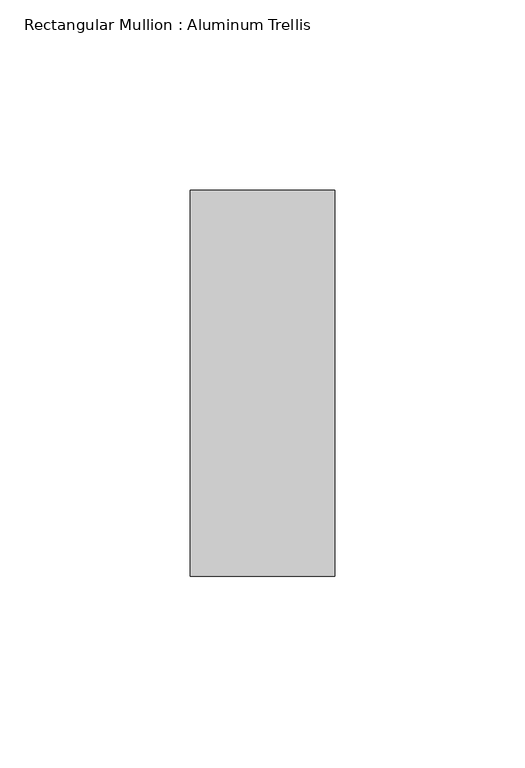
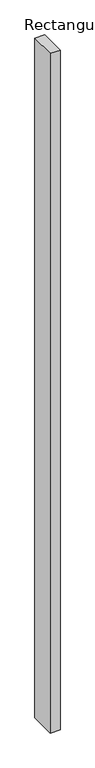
"""IFC4 building model written with IfcOpenShell, lengths in millimetres: member geometry, Rectangular Mullion : Aluminum Trellis."""

from ifc_helpers import new_model, si_unit, frame, origin, place, context, project, spatial, polyline, outline, extrude, source, transform, mapped, element, save


def rectangular_mullion_aluminum_trellis_036251f1(model_context):
    return source(origin(), model_context, "Body", "SweptSolid", [
        extrude(outline(polyline([(19.05, 50.8), (19.05, -50.8), (-19.05, -50.8), (-19.05, 50.8), (19.05, 50.8)])), frame((0.0, 0.0, -2764.1056955), z_axis=(0.0, 0.0, 1.0), x_axis=(1.0, 0.0, 0.0)), (0.0, 0.0, 1.0), 2764.1056955),
    ])


if __name__ == "__main__":
    model = new_model("IFC4")
    model_context = context("Model", 3, world=origin())
    ifc_project = project(units=[si_unit("LENGTHUNIT", "METRE", prefix="MILLI")], contexts=[model_context])
    site = spatial("IfcSite", under=ifc_project)
    building = spatial("IfcBuilding", under=site)
    placement = place(None, origin())
    rectangular_mullion_aluminum_trellis_shape = rectangular_mullion_aluminum_trellis_036251f1(model_context)
    element("IfcMember", 1, ObjectType="Rectangular Mullion : Aluminum Trellis", at=placement, inside=building, context=model_context, shape_type="MappedRepresentation", body=[
        mapped(rectangular_mullion_aluminum_trellis_shape, transform((0.0, 0.0, 0.0), x_axis=(1.0, 0.0, 0.0), y_axis=(0.0, 1.0, 0.0), z_axis=(0.0, 0.0, 1.0))),
    ])
    save(model, "model.ifc")
